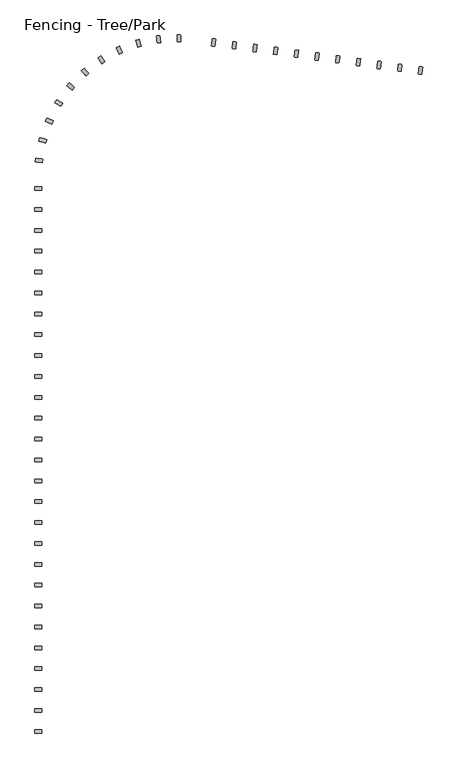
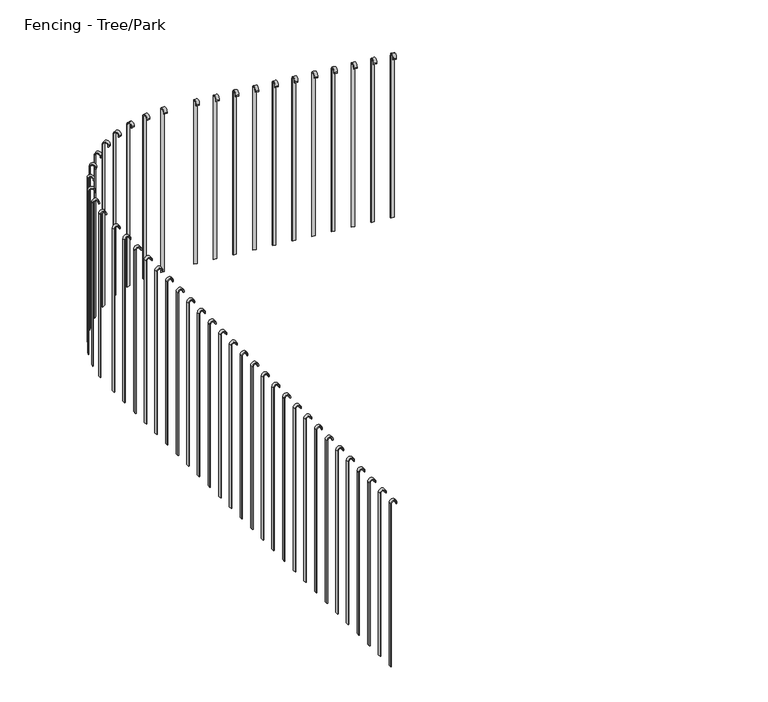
"""IFC4 building model written with IfcOpenShell, lengths in millimetres: railing geometry, Fencing - Tree/Park."""

from ifc_helpers import new_model, si_unit, point, frame, frame_2d, origin, place, context, project, spatial, polyline, circle_curve, trimmed, segment, composite_curve, outline, extrude, source, transform, mapped, element, save


def fencing_tree_park_2f6e36ae(model_context):
    return source(origin(), model_context, "Body", "SweptSolid", [
        extrude(outline(composite_curve([segment(polyline([(4250.0, -12895.5232368), (2850.0, -12895.5232368), (2850.0, -12890.5232368), (4250.0, -12890.5232368)]), True, "CONTINUOUS"), segment(trimmed(circle_curve(frame_2d((4250.0, -12870.5232368)), 20.0), [point((4250.0, -12890.5232368))], [point((4250.0, -12850.5232368))], True, "CARTESIAN"), True, "CONTINUOUS"), segment(polyline([(4250.0, -12850.5232368), (4240.0, -12850.5232368), (4240.0, -12845.5232368), (4250.0, -12845.5232368)]), True, "CONTINUOUS"), segment(trimmed(circle_curve(frame_2d((4250.0, -12870.5232368)), 25.0), [point((4250.0, -12845.5232368))], [point((4250.0, -12895.5232368))], False, "CARTESIAN"), True, "CONTINUOUS")], self_intersect=False)), frame((0.0, 7287.7905414, 0.0), z_axis=(0.0, 1.0, 0.0), x_axis=(0.0, 0.0, 1.0)), (0.0, 0.0, 1.0), 25.0),
        extrude(outline(composite_curve([segment(polyline([(4250.0, -12895.5232368), (2850.0, -12895.5232368), (2850.0, -12890.5232368), (4250.0, -12890.5232368)]), True, "CONTINUOUS"), segment(trimmed(circle_curve(frame_2d((4250.0, -12870.5232368)), 20.0), [point((4250.0, -12890.5232368))], [point((4250.0, -12850.5232368))], True, "CARTESIAN"), True, "CONTINUOUS"), segment(polyline([(4250.0, -12850.5232368), (4240.0, -12850.5232368), (4240.0, -12845.5232368), (4250.0, -12845.5232368)]), True, "CONTINUOUS"), segment(trimmed(circle_curve(frame_2d((4250.0, -12870.5232368)), 25.0), [point((4250.0, -12845.5232368))], [point((4250.0, -12895.5232368))], False, "CARTESIAN"), True, "CONTINUOUS")], self_intersect=False)), frame((0.0, 7437.7905414, 0.0), z_axis=(0.0, 1.0, 0.0), x_axis=(0.0, 0.0, 1.0)), (0.0, 0.0, 1.0), 25.0),
        extrude(outline(composite_curve([segment(polyline([(4250.0, -12895.5232368), (2850.0, -12895.5232368), (2850.0, -12890.5232368), (4250.0, -12890.5232368)]), True, "CONTINUOUS"), segment(trimmed(circle_curve(frame_2d((4250.0, -12870.5232368)), 20.0), [point((4250.0, -12890.5232368))], [point((4250.0, -12850.5232368))], True, "CARTESIAN"), True, "CONTINUOUS"), segment(polyline([(4250.0, -12850.5232368), (4240.0, -12850.5232368), (4240.0, -12845.5232368), (4250.0, -12845.5232368)]), True, "CONTINUOUS"), segment(trimmed(circle_curve(frame_2d((4250.0, -12870.5232368)), 25.0), [point((4250.0, -12845.5232368))], [point((4250.0, -12895.5232368))], False, "CARTESIAN"), True, "CONTINUOUS")], self_intersect=False)), frame((0.0, 7587.7905414, 0.0), z_axis=(0.0, 1.0, 0.0), x_axis=(0.0, 0.0, 1.0)), (0.0, 0.0, 1.0), 25.0),
        extrude(outline(composite_curve([segment(polyline([(4250.0, -12895.5232368), (2850.0, -12895.5232368), (2850.0, -12890.5232368), (4250.0, -12890.5232368)]), True, "CONTINUOUS"), segment(trimmed(circle_curve(frame_2d((4250.0, -12870.5232368)), 20.0), [point((4250.0, -12890.5232368))], [point((4250.0, -12850.5232368))], True, "CARTESIAN"), True, "CONTINUOUS"), segment(polyline([(4250.0, -12850.5232368), (4240.0, -12850.5232368), (4240.0, -12845.5232368), (4250.0, -12845.5232368)]), True, "CONTINUOUS"), segment(trimmed(circle_curve(frame_2d((4250.0, -12870.5232368)), 25.0), [point((4250.0, -12845.5232368))], [point((4250.0, -12895.5232368))], False, "CARTESIAN"), True, "CONTINUOUS")], self_intersect=False)), frame((0.0, 7737.7905414, 0.0), z_axis=(0.0, 1.0, 0.0), x_axis=(0.0, 0.0, 1.0)), (0.0, 0.0, 1.0), 25.0),
        extrude(outline(composite_curve([segment(polyline([(4250.0, -12895.5232368), (2850.0, -12895.5232368), (2850.0, -12890.5232368), (4250.0, -12890.5232368)]), True, "CONTINUOUS"), segment(trimmed(circle_curve(frame_2d((4250.0, -12870.5232368)), 20.0), [point((4250.0, -12890.5232368))], [point((4250.0, -12850.5232368))], True, "CARTESIAN"), True, "CONTINUOUS"), segment(polyline([(4250.0, -12850.5232368), (4240.0, -12850.5232368), (4240.0, -12845.5232368), (4250.0, -12845.5232368)]), True, "CONTINUOUS"), segment(trimmed(circle_curve(frame_2d((4250.0, -12870.5232368)), 25.0), [point((4250.0, -12845.5232368))], [point((4250.0, -12895.5232368))], False, "CARTESIAN"), True, "CONTINUOUS")], self_intersect=False)), frame((0.0, 7887.7905414, 0.0), z_axis=(0.0, 1.0, 0.0), x_axis=(0.0, 0.0, 1.0)), (0.0, 0.0, 1.0), 25.0),
        extrude(outline(composite_curve([segment(polyline([(4250.0, -12895.5232368), (2850.0, -12895.5232368), (2850.0, -12890.5232368), (4250.0, -12890.5232368)]), True, "CONTINUOUS"), segment(trimmed(circle_curve(frame_2d((4250.0, -12870.5232368)), 20.0), [point((4250.0, -12890.5232368))], [point((4250.0, -12850.5232368))], True, "CARTESIAN"), True, "CONTINUOUS"), segment(polyline([(4250.0, -12850.5232368), (4240.0, -12850.5232368), (4240.0, -12845.5232368), (4250.0, -12845.5232368)]), True, "CONTINUOUS"), segment(trimmed(circle_curve(frame_2d((4250.0, -12870.5232368)), 25.0), [point((4250.0, -12845.5232368))], [point((4250.0, -12895.5232368))], False, "CARTESIAN"), True, "CONTINUOUS")], self_intersect=False)), frame((0.0, 8037.7905414, 0.0), z_axis=(0.0, 1.0, 0.0), x_axis=(0.0, 0.0, 1.0)), (0.0, 0.0, 1.0), 25.0),
        extrude(outline(composite_curve([segment(polyline([(4250.0, -12895.5232368), (2850.0, -12895.5232368), (2850.0, -12890.5232368), (4250.0, -12890.5232368)]), True, "CONTINUOUS"), segment(trimmed(circle_curve(frame_2d((4250.0, -12870.5232368)), 20.0), [point((4250.0, -12890.5232368))], [point((4250.0, -12850.5232368))], True, "CARTESIAN"), True, "CONTINUOUS"), segment(polyline([(4250.0, -12850.5232368), (4240.0, -12850.5232368), (4240.0, -12845.5232368), (4250.0, -12845.5232368)]), True, "CONTINUOUS"), segment(trimmed(circle_curve(frame_2d((4250.0, -12870.5232368)), 25.0), [point((4250.0, -12845.5232368))], [point((4250.0, -12895.5232368))], False, "CARTESIAN"), True, "CONTINUOUS")], self_intersect=False)), frame((0.0, 8187.7905414, 0.0), z_axis=(0.0, 1.0, 0.0), x_axis=(0.0, 0.0, 1.0)), (0.0, 0.0, 1.0), 25.0),
        extrude(outline(composite_curve([segment(polyline([(4250.0, -12895.5232368), (2850.0, -12895.5232368), (2850.0, -12890.5232368), (4250.0, -12890.5232368)]), True, "CONTINUOUS"), segment(trimmed(circle_curve(frame_2d((4250.0, -12870.5232368)), 20.0), [point((4250.0, -12890.5232368))], [point((4250.0, -12850.5232368))], True, "CARTESIAN"), True, "CONTINUOUS"), segment(polyline([(4250.0, -12850.5232368), (4240.0, -12850.5232368), (4240.0, -12845.5232368), (4250.0, -12845.5232368)]), True, "CONTINUOUS"), segment(trimmed(circle_curve(frame_2d((4250.0, -12870.5232368)), 25.0), [point((4250.0, -12845.5232368))], [point((4250.0, -12895.5232368))], False, "CARTESIAN"), True, "CONTINUOUS")], self_intersect=False)), frame((0.0, 8337.7905414, 0.0), z_axis=(0.0, 1.0, 0.0), x_axis=(0.0, 0.0, 1.0)), (0.0, 0.0, 1.0), 25.0),
        extrude(outline(composite_curve([segment(polyline([(4250.0, -12895.5232368), (2850.0, -12895.5232368), (2850.0, -12890.5232368), (4250.0, -12890.5232368)]), True, "CONTINUOUS"), segment(trimmed(circle_curve(frame_2d((4250.0, -12870.5232368)), 20.0), [point((4250.0, -12890.5232368))], [point((4250.0, -12850.5232368))], True, "CARTESIAN"), True, "CONTINUOUS"), segment(polyline([(4250.0, -12850.5232368), (4240.0, -12850.5232368), (4240.0, -12845.5232368), (4250.0, -12845.5232368)]), True, "CONTINUOUS"), segment(trimmed(circle_curve(frame_2d((4250.0, -12870.5232368)), 25.0), [point((4250.0, -12845.5232368))], [point((4250.0, -12895.5232368))], False, "CARTESIAN"), True, "CONTINUOUS")], self_intersect=False)), frame((0.0, 8487.7905414, 0.0), z_axis=(0.0, 1.0, 0.0), x_axis=(0.0, 0.0, 1.0)), (0.0, 0.0, 1.0), 25.0),
        extrude(outline(composite_curve([segment(polyline([(4250.0, -12895.5232368), (2850.0, -12895.5232368), (2850.0, -12890.5232368), (4250.0, -12890.5232368)]), True, "CONTINUOUS"), segment(trimmed(circle_curve(frame_2d((4250.0, -12870.5232368)), 20.0), [point((4250.0, -12890.5232368))], [point((4250.0, -12850.5232368))], True, "CARTESIAN"), True, "CONTINUOUS"), segment(polyline([(4250.0, -12850.5232368), (4240.0, -12850.5232368), (4240.0, -12845.5232368), (4250.0, -12845.5232368)]), True, "CONTINUOUS"), segment(trimmed(circle_curve(frame_2d((4250.0, -12870.5232368)), 25.0), [point((4250.0, -12845.5232368))], [point((4250.0, -12895.5232368))], False, "CARTESIAN"), True, "CONTINUOUS")], self_intersect=False)), frame((0.0, 8637.7905414, 0.0), z_axis=(0.0, 1.0, 0.0), x_axis=(0.0, 0.0, 1.0)), (0.0, 0.0, 1.0), 25.0),
        extrude(outline(composite_curve([segment(polyline([(4250.0, -12895.5232368), (2850.0, -12895.5232368), (2850.0, -12890.5232368), (4250.0, -12890.5232368)]), True, "CONTINUOUS"), segment(trimmed(circle_curve(frame_2d((4250.0, -12870.5232368)), 20.0), [point((4250.0, -12890.5232368))], [point((4250.0, -12850.5232368))], True, "CARTESIAN"), True, "CONTINUOUS"), segment(polyline([(4250.0, -12850.5232368), (4240.0, -12850.5232368), (4240.0, -12845.5232368), (4250.0, -12845.5232368)]), True, "CONTINUOUS"), segment(trimmed(circle_curve(frame_2d((4250.0, -12870.5232368)), 25.0), [point((4250.0, -12845.5232368))], [point((4250.0, -12895.5232368))], False, "CARTESIAN"), True, "CONTINUOUS")], self_intersect=False)), frame((0.0, 8787.7905414, 0.0), z_axis=(0.0, 1.0, 0.0), x_axis=(0.0, 0.0, 1.0)), (0.0, 0.0, 1.0), 25.0),
        extrude(outline(composite_curve([segment(polyline([(4250.0, -12895.5232368), (2850.0, -12895.5232368), (2850.0, -12890.5232368), (4250.0, -12890.5232368)]), True, "CONTINUOUS"), segment(trimmed(circle_curve(frame_2d((4250.0, -12870.5232368)), 20.0), [point((4250.0, -12890.5232368))], [point((4250.0, -12850.5232368))], True, "CARTESIAN"), True, "CONTINUOUS"), segment(polyline([(4250.0, -12850.5232368), (4240.0, -12850.5232368), (4240.0, -12845.5232368), (4250.0, -12845.5232368)]), True, "CONTINUOUS"), segment(trimmed(circle_curve(frame_2d((4250.0, -12870.5232368)), 25.0), [point((4250.0, -12845.5232368))], [point((4250.0, -12895.5232368))], False, "CARTESIAN"), True, "CONTINUOUS")], self_intersect=False)), frame((0.0, 8937.7905414, 0.0), z_axis=(0.0, 1.0, 0.0), x_axis=(0.0, 0.0, 1.0)), (0.0, 0.0, 1.0), 25.0),
        extrude(outline(composite_curve([segment(polyline([(4250.0, -12895.5232368), (2850.0, -12895.5232368), (2850.0, -12890.5232368), (4250.0, -12890.5232368)]), True, "CONTINUOUS"), segment(trimmed(circle_curve(frame_2d((4250.0, -12870.5232368)), 20.0), [point((4250.0, -12890.5232368))], [point((4250.0, -12850.5232368))], True, "CARTESIAN"), True, "CONTINUOUS"), segment(polyline([(4250.0, -12850.5232368), (4240.0, -12850.5232368), (4240.0, -12845.5232368), (4250.0, -12845.5232368)]), True, "CONTINUOUS"), segment(trimmed(circle_curve(frame_2d((4250.0, -12870.5232368)), 25.0), [point((4250.0, -12845.5232368))], [point((4250.0, -12895.5232368))], False, "CARTESIAN"), True, "CONTINUOUS")], self_intersect=False)), frame((0.0, 9087.7905414, 0.0), z_axis=(0.0, 1.0, 0.0), x_axis=(0.0, 0.0, 1.0)), (0.0, 0.0, 1.0), 25.0),
        extrude(outline(composite_curve([segment(polyline([(4250.0, -12895.5232368), (2850.0, -12895.5232368), (2850.0, -12890.5232368), (4250.0, -12890.5232368)]), True, "CONTINUOUS"), segment(trimmed(circle_curve(frame_2d((4250.0, -12870.5232368)), 20.0), [point((4250.0, -12890.5232368))], [point((4250.0, -12850.5232368))], True, "CARTESIAN"), True, "CONTINUOUS"), segment(polyline([(4250.0, -12850.5232368), (4240.0, -12850.5232368), (4240.0, -12845.5232368), (4250.0, -12845.5232368)]), True, "CONTINUOUS"), segment(trimmed(circle_curve(frame_2d((4250.0, -12870.5232368)), 25.0), [point((4250.0, -12845.5232368))], [point((4250.0, -12895.5232368))], False, "CARTESIAN"), True, "CONTINUOUS")], self_intersect=False)), frame((0.0, 9237.7905414, 0.0), z_axis=(0.0, 1.0, 0.0), x_axis=(0.0, 0.0, 1.0)), (0.0, 0.0, 1.0), 25.0),
        extrude(outline(composite_curve([segment(polyline([(4250.0, -12895.5232368), (2850.0, -12895.5232368), (2850.0, -12890.5232368), (4250.0, -12890.5232368)]), True, "CONTINUOUS"), segment(trimmed(circle_curve(frame_2d((4250.0, -12870.5232368)), 20.0), [point((4250.0, -12890.5232368))], [point((4250.0, -12850.5232368))], True, "CARTESIAN"), True, "CONTINUOUS"), segment(polyline([(4250.0, -12850.5232368), (4240.0, -12850.5232368), (4240.0, -12845.5232368), (4250.0, -12845.5232368)]), True, "CONTINUOUS"), segment(trimmed(circle_curve(frame_2d((4250.0, -12870.5232368)), 25.0), [point((4250.0, -12845.5232368))], [point((4250.0, -12895.5232368))], False, "CARTESIAN"), True, "CONTINUOUS")], self_intersect=False)), frame((0.0, 9387.7905414, 0.0), z_axis=(0.0, 1.0, 0.0), x_axis=(0.0, 0.0, 1.0)), (0.0, 0.0, 1.0), 25.0),
        extrude(outline(composite_curve([segment(polyline([(4250.0, -12895.5232368), (2850.0, -12895.5232368), (2850.0, -12890.5232368), (4250.0, -12890.5232368)]), True, "CONTINUOUS"), segment(trimmed(circle_curve(frame_2d((4250.0, -12870.5232368)), 20.0), [point((4250.0, -12890.5232368))], [point((4250.0, -12850.5232368))], True, "CARTESIAN"), True, "CONTINUOUS"), segment(polyline([(4250.0, -12850.5232368), (4240.0, -12850.5232368), (4240.0, -12845.5232368), (4250.0, -12845.5232368)]), True, "CONTINUOUS"), segment(trimmed(circle_curve(frame_2d((4250.0, -12870.5232368)), 25.0), [point((4250.0, -12845.5232368))], [point((4250.0, -12895.5232368))], False, "CARTESIAN"), True, "CONTINUOUS")], self_intersect=False)), frame((0.0, 9537.7905414, 0.0), z_axis=(0.0, 1.0, 0.0), x_axis=(0.0, 0.0, 1.0)), (0.0, 0.0, 1.0), 25.0),
        extrude(outline(composite_curve([segment(polyline([(4250.0, -12895.5232368), (2850.0, -12895.5232368), (2850.0, -12890.5232368), (4250.0, -12890.5232368)]), True, "CONTINUOUS"), segment(trimmed(circle_curve(frame_2d((4250.0, -12870.5232368)), 20.0), [point((4250.0, -12890.5232368))], [point((4250.0, -12850.5232368))], True, "CARTESIAN"), True, "CONTINUOUS"), segment(polyline([(4250.0, -12850.5232368), (4240.0, -12850.5232368), (4240.0, -12845.5232368), (4250.0, -12845.5232368)]), True, "CONTINUOUS"), segment(trimmed(circle_curve(frame_2d((4250.0, -12870.5232368)), 25.0), [point((4250.0, -12845.5232368))], [point((4250.0, -12895.5232368))], False, "CARTESIAN"), True, "CONTINUOUS")], self_intersect=False)), frame((0.0, 9687.7905414, 0.0), z_axis=(0.0, 1.0, 0.0), x_axis=(0.0, 0.0, 1.0)), (0.0, 0.0, 1.0), 25.0),
        extrude(outline(composite_curve([segment(polyline([(4250.0, -12895.5232368), (2850.0, -12895.5232368), (2850.0, -12890.5232368), (4250.0, -12890.5232368)]), True, "CONTINUOUS"), segment(trimmed(circle_curve(frame_2d((4250.0, -12870.5232368)), 20.0), [point((4250.0, -12890.5232368))], [point((4250.0, -12850.5232368))], True, "CARTESIAN"), True, "CONTINUOUS"), segment(polyline([(4250.0, -12850.5232368), (4240.0, -12850.5232368), (4240.0, -12845.5232368), (4250.0, -12845.5232368)]), True, "CONTINUOUS"), segment(trimmed(circle_curve(frame_2d((4250.0, -12870.5232368)), 25.0), [point((4250.0, -12845.5232368))], [point((4250.0, -12895.5232368))], False, "CARTESIAN"), True, "CONTINUOUS")], self_intersect=False)), frame((0.0, 9837.7905414, 0.0), z_axis=(0.0, 1.0, 0.0), x_axis=(0.0, 0.0, 1.0)), (0.0, 0.0, 1.0), 25.0),
        extrude(outline(composite_curve([segment(polyline([(4250.0, -12895.5232368), (2850.0, -12895.5232368), (2850.0, -12890.5232368), (4250.0, -12890.5232368)]), True, "CONTINUOUS"), segment(trimmed(circle_curve(frame_2d((4250.0, -12870.5232368)), 20.0), [point((4250.0, -12890.5232368))], [point((4250.0, -12850.5232368))], True, "CARTESIAN"), True, "CONTINUOUS"), segment(polyline([(4250.0, -12850.5232368), (4240.0, -12850.5232368), (4240.0, -12845.5232368), (4250.0, -12845.5232368)]), True, "CONTINUOUS"), segment(trimmed(circle_curve(frame_2d((4250.0, -12870.5232368)), 25.0), [point((4250.0, -12845.5232368))], [point((4250.0, -12895.5232368))], False, "CARTESIAN"), True, "CONTINUOUS")], self_intersect=False)), frame((0.0, 9987.7905414, 0.0), z_axis=(0.0, 1.0, 0.0), x_axis=(0.0, 0.0, 1.0)), (0.0, 0.0, 1.0), 25.0),
        extrude(outline(composite_curve([segment(polyline([(4250.0, -12895.5232368), (2850.0, -12895.5232368), (2850.0, -12890.5232368), (4250.0, -12890.5232368)]), True, "CONTINUOUS"), segment(trimmed(circle_curve(frame_2d((4250.0, -12870.5232368)), 20.0), [point((4250.0, -12890.5232368))], [point((4250.0, -12850.5232368))], True, "CARTESIAN"), True, "CONTINUOUS"), segment(polyline([(4250.0, -12850.5232368), (4240.0, -12850.5232368), (4240.0, -12845.5232368), (4250.0, -12845.5232368)]), True, "CONTINUOUS"), segment(trimmed(circle_curve(frame_2d((4250.0, -12870.5232368)), 25.0), [point((4250.0, -12845.5232368))], [point((4250.0, -12895.5232368))], False, "CARTESIAN"), True, "CONTINUOUS")], self_intersect=False)), frame((0.0, 10137.7905414, 0.0), z_axis=(0.0, 1.0, 0.0), x_axis=(0.0, 0.0, 1.0)), (0.0, 0.0, 1.0), 25.0),
        extrude(outline(composite_curve([segment(polyline([(4250.0, -12895.5232368), (2850.0, -12895.5232368), (2850.0, -12890.5232368), (4250.0, -12890.5232368)]), True, "CONTINUOUS"), segment(trimmed(circle_curve(frame_2d((4250.0, -12870.5232368)), 20.0), [point((4250.0, -12890.5232368))], [point((4250.0, -12850.5232368))], True, "CARTESIAN"), True, "CONTINUOUS"), segment(polyline([(4250.0, -12850.5232368), (4240.0, -12850.5232368), (4240.0, -12845.5232368), (4250.0, -12845.5232368)]), True, "CONTINUOUS"), segment(trimmed(circle_curve(frame_2d((4250.0, -12870.5232368)), 25.0), [point((4250.0, -12845.5232368))], [point((4250.0, -12895.5232368))], False, "CARTESIAN"), True, "CONTINUOUS")], self_intersect=False)), frame((0.0, 10287.7905414, 0.0), z_axis=(0.0, 1.0, 0.0), x_axis=(0.0, 0.0, 1.0)), (0.0, 0.0, 1.0), 25.0),
        extrude(outline(composite_curve([segment(polyline([(4250.0, -12895.5232368), (2850.0, -12895.5232368), (2850.0, -12890.5232368), (4250.0, -12890.5232368)]), True, "CONTINUOUS"), segment(trimmed(circle_curve(frame_2d((4250.0, -12870.5232368)), 20.0), [point((4250.0, -12890.5232368))], [point((4250.0, -12850.5232368))], True, "CARTESIAN"), True, "CONTINUOUS"), segment(polyline([(4250.0, -12850.5232368), (4240.0, -12850.5232368), (4240.0, -12845.5232368), (4250.0, -12845.5232368)]), True, "CONTINUOUS"), segment(trimmed(circle_curve(frame_2d((4250.0, -12870.5232368)), 25.0), [point((4250.0, -12845.5232368))], [point((4250.0, -12895.5232368))], False, "CARTESIAN"), True, "CONTINUOUS")], self_intersect=False)), frame((0.0, 10437.7905414, 0.0), z_axis=(0.0, 1.0, 0.0), x_axis=(0.0, 0.0, 1.0)), (0.0, 0.0, 1.0), 25.0),
        extrude(outline(composite_curve([segment(polyline([(4250.0, -12895.5232368), (2850.0, -12895.5232368), (2850.0, -12890.5232368), (4250.0, -12890.5232368)]), True, "CONTINUOUS"), segment(trimmed(circle_curve(frame_2d((4250.0, -12870.5232368)), 20.0), [point((4250.0, -12890.5232368))], [point((4250.0, -12850.5232368))], True, "CARTESIAN"), True, "CONTINUOUS"), segment(polyline([(4250.0, -12850.5232368), (4240.0, -12850.5232368), (4240.0, -12845.5232368), (4250.0, -12845.5232368)]), True, "CONTINUOUS"), segment(trimmed(circle_curve(frame_2d((4250.0, -12870.5232368)), 25.0), [point((4250.0, -12845.5232368))], [point((4250.0, -12895.5232368))], False, "CARTESIAN"), True, "CONTINUOUS")], self_intersect=False)), frame((0.0, 10587.7905414, 0.0), z_axis=(0.0, 1.0, 0.0), x_axis=(0.0, 0.0, 1.0)), (0.0, 0.0, 1.0), 25.0),
        extrude(outline(composite_curve([segment(polyline([(4250.0, -12895.5232368), (2850.0, -12895.5232368), (2850.0, -12890.5232368), (4250.0, -12890.5232368)]), True, "CONTINUOUS"), segment(trimmed(circle_curve(frame_2d((4250.0, -12870.5232368)), 20.0), [point((4250.0, -12890.5232368))], [point((4250.0, -12850.5232368))], True, "CARTESIAN"), True, "CONTINUOUS"), segment(polyline([(4250.0, -12850.5232368), (4240.0, -12850.5232368), (4240.0, -12845.5232368), (4250.0, -12845.5232368)]), True, "CONTINUOUS"), segment(trimmed(circle_curve(frame_2d((4250.0, -12870.5232368)), 25.0), [point((4250.0, -12845.5232368))], [point((4250.0, -12895.5232368))], False, "CARTESIAN"), True, "CONTINUOUS")], self_intersect=False)), frame((0.0, 10737.7905414, 0.0), z_axis=(0.0, 1.0, 0.0), x_axis=(0.0, 0.0, 1.0)), (0.0, 0.0, 1.0), 25.0),
        extrude(outline(composite_curve([segment(polyline([(4250.0, -12895.5232368), (2850.0, -12895.5232368), (2850.0, -12890.5232368), (4250.0, -12890.5232368)]), True, "CONTINUOUS"), segment(trimmed(circle_curve(frame_2d((4250.0, -12870.5232368)), 20.0), [point((4250.0, -12890.5232368))], [point((4250.0, -12850.5232368))], True, "CARTESIAN"), True, "CONTINUOUS"), segment(polyline([(4250.0, -12850.5232368), (4240.0, -12850.5232368), (4240.0, -12845.5232368), (4250.0, -12845.5232368)]), True, "CONTINUOUS"), segment(trimmed(circle_curve(frame_2d((4250.0, -12870.5232368)), 25.0), [point((4250.0, -12845.5232368))], [point((4250.0, -12895.5232368))], False, "CARTESIAN"), True, "CONTINUOUS")], self_intersect=False)), frame((0.0, 10887.7905414, 0.0), z_axis=(0.0, 1.0, 0.0), x_axis=(0.0, 0.0, 1.0)), (0.0, 0.0, 1.0), 25.0),
        extrude(outline(composite_curve([segment(polyline([(4250.0, -12895.5232368), (2850.0, -12895.5232368), (2850.0, -12890.5232368), (4250.0, -12890.5232368)]), True, "CONTINUOUS"), segment(trimmed(circle_curve(frame_2d((4250.0, -12870.5232368)), 20.0), [point((4250.0, -12890.5232368))], [point((4250.0, -12850.5232368))], True, "CARTESIAN"), True, "CONTINUOUS"), segment(polyline([(4250.0, -12850.5232368), (4240.0, -12850.5232368), (4240.0, -12845.5232368), (4250.0, -12845.5232368)]), True, "CONTINUOUS"), segment(trimmed(circle_curve(frame_2d((4250.0, -12870.5232368)), 25.0), [point((4250.0, -12845.5232368))], [point((4250.0, -12895.5232368))], False, "CARTESIAN"), True, "CONTINUOUS")], self_intersect=False)), frame((0.0, 11037.7905414, 0.0), z_axis=(0.0, 1.0, 0.0), x_axis=(0.0, 0.0, 1.0)), (0.0, 0.0, 1.0), 25.0),
        extrude(outline(composite_curve([segment(polyline([(4250.0, -12895.5232368), (2850.0, -12895.5232368), (2850.0, -12890.5232368), (4250.0, -12890.5232368)]), True, "CONTINUOUS"), segment(trimmed(circle_curve(frame_2d((4250.0, -12870.5232368)), 20.0), [point((4250.0, -12890.5232368))], [point((4250.0, -12850.5232368))], True, "CARTESIAN"), True, "CONTINUOUS"), segment(polyline([(4250.0, -12850.5232368), (4240.0, -12850.5232368), (4240.0, -12845.5232368), (4250.0, -12845.5232368)]), True, "CONTINUOUS"), segment(trimmed(circle_curve(frame_2d((4250.0, -12870.5232368)), 25.0), [point((4250.0, -12845.5232368))], [point((4250.0, -12895.5232368))], False, "CARTESIAN"), True, "CONTINUOUS")], self_intersect=False)), frame((0.0, 11187.7905414, 0.0), z_axis=(0.0, 1.0, 0.0), x_axis=(0.0, 0.0, 1.0)), (0.0, 0.0, 1.0), 25.0),
        extrude(outline(composite_curve([segment(polyline([(-1400.0, 0.0), (0.0, 0.0), (0.0, -5.0), (-1400.0, -5.0)]), True, "CONTINUOUS"), segment(trimmed(circle_curve(frame_2d((-1400.0, -24.9999999)), 20.0), [point((-1400.0, -5.0))], [point((-1400.0, -45.0))], True, "CARTESIAN"), True, "CONTINUOUS"), segment(polyline([(-1400.0, -45.0), (-1390.0, -45.0), (-1390.0, -50.0), (-1400.0, -50.0)]), True, "CONTINUOUS"), segment(trimmed(circle_curve(frame_2d((-1400.0, -24.9999999)), 25.0), [point((-1400.0, -50.0))], [point((-1400.0, 0.0))], False, "CARTESIAN"), True, "CONTINUOUS")], self_intersect=False)), frame((-12891.3749208, 11392.3203584, 2850.0), z_axis=(0.10403796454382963, 0.9945733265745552, 0.0), x_axis=(0.0, 0.0, -1.0)), (0.0, 0.0, 1.0), 25.0),
        extrude(outline(composite_curve([segment(polyline([(-1400.0, 0.0), (0.0, 0.0), (0.0, -5.0), (-1400.0, -5.0)]), True, "CONTINUOUS"), segment(trimmed(circle_curve(frame_2d((-1400.0, -25.0)), 20.0), [point((-1400.0, -5.0))], [point((-1400.0, -45.0))], True, "CARTESIAN"), True, "CONTINUOUS"), segment(polyline([(-1400.0, -45.0), (-1390.0, -45.0), (-1390.0, -50.0), (-1400.0, -50.0)]), True, "CONTINUOUS"), segment(trimmed(circle_curve(frame_2d((-1400.0, -25.0)), 25.0), [point((-1400.0, -50.0))], [point((-1400.0, 0.0))], False, "CARTESIAN"), True, "CONTINUOUS")], self_intersect=False)), frame((-12866.450757, 11540.4841658, 2850.0), z_axis=(0.2512685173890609, 0.9679174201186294, 0.0), x_axis=(0.0, 0.0, -1.0)), (0.0, 0.0, 1.0), 25.0),
        extrude(outline(composite_curve([segment(polyline([(-1400.0, 0.0), (0.0, 0.0), (0.0, -5.0), (-1400.0, -5.0)]), True, "CONTINUOUS"), segment(trimmed(circle_curve(frame_2d((-1400.0, -25.0)), 20.0), [point((-1400.0, -5.0))], [point((-1400.0, -45.0))], True, "CARTESIAN"), True, "CONTINUOUS"), segment(polyline([(-1400.0, -45.0), (-1390.0, -45.0), (-1390.0, -50.0), (-1400.0, -50.0)]), True, "CONTINUOUS"), segment(trimmed(circle_curve(frame_2d((-1400.0, -25.0)), 25.0), [point((-1400.0, -50.0))], [point((-1400.0, 0.0))], False, "CARTESIAN"), True, "CONTINUOUS")], self_intersect=False)), frame((-12819.6988341, 11683.2706688, 2850.0), z_axis=(0.3928738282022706, 0.919592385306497, 0.0), x_axis=(0.0, 0.0, -1.0)), (0.0, 0.0, 1.0), 25.0),
        extrude(outline(composite_curve([segment(polyline([(-1400.0, 0.0), (0.0, 0.0), (0.0, -5.0000001), (-1400.0, -5.0000001)]), True, "CONTINUOUS"), segment(trimmed(circle_curve(frame_2d((-1400.0, -25.0)), 20.0), [point((-1400.0, -5.0000001))], [point((-1400.0, -45.0))], True, "CARTESIAN"), True, "CONTINUOUS"), segment(polyline([(-1400.0, -45.0), (-1390.0, -45.0), (-1390.0, -50.0), (-1400.0, -50.0)]), True, "CONTINUOUS"), segment(trimmed(circle_curve(frame_2d((-1400.0, -25.0)), 25.0), [point((-1400.0, -50.0))], [point((-1400.0, 0.0))], False, "CARTESIAN"), True, "CONTINUOUS")], self_intersect=False)), frame((-12752.165805, 11817.4832529, 2850.0), z_axis=(0.5256837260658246, 0.850680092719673, 0.0), x_axis=(0.0, 0.0, -1.0)), (0.0, 0.0, 1.0), 25.0),
        extrude(outline(composite_curve([segment(polyline([(-1400.0, 0.0), (0.0, 0.0), (0.0, -5.0), (-1400.0, -5.0)]), True, "CONTINUOUS"), segment(trimmed(circle_curve(frame_2d((-1400.0, -25.0)), 20.0), [point((-1400.0, -5.0))], [point((-1400.0, -45.0))], True, "CARTESIAN"), True, "CONTINUOUS"), segment(polyline([(-1400.0, -45.0), (-1390.0, -45.0), (-1390.0, -50.0), (-1400.0, -50.0)]), True, "CONTINUOUS"), segment(trimmed(circle_curve(frame_2d((-1400.0, -25.0)), 25.0), [point((-1400.0, -50.0))], [point((-1400.0, 0.0))], False, "CARTESIAN"), True, "CONTINUOUS")], self_intersect=False)), frame((-12665.3635567, 11940.1172508, 2850.0), z_axis=(0.6467249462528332, 0.7627233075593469, 0.0), x_axis=(0.0, 0.0, -1.0)), (0.0, 0.0, 1.0), 25.0),
        extrude(outline(composite_curve([segment(polyline([(-1400.0, 0.0), (0.0, 0.0), (0.0, -5.0), (-1400.0, -5.0)]), True, "CONTINUOUS"), segment(trimmed(circle_curve(frame_2d((-1400.0, -25.0)), 20.0), [point((-1400.0, -5.0))], [point((-1400.0, -45.0))], True, "CARTESIAN"), True, "CONTINUOUS"), segment(polyline([(-1400.0, -45.0), (-1390.0, -45.0), (-1390.0, -50.0), (-1400.0, -50.0)]), True, "CONTINUOUS"), segment(trimmed(circle_curve(frame_2d((-1400.0, -25.0)), 25.0), [point((-1400.0, -50.0))], [point((-1400.0, 0.0))], False, "CARTESIAN"), True, "CONTINUOUS")], self_intersect=False)), frame((-12561.2353637, 12048.4272094, 2850.0), z_axis=(0.7532876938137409, 0.6576911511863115, 0.0), x_axis=(0.0, 0.0, -1.0)), (0.0, 0.0, 1.0), 25.0),
        extrude(outline(composite_curve([segment(polyline([(-1400.0, 0.0), (0.0, 0.0), (0.0, -5.0), (-1400.0, -5.0)]), True, "CONTINUOUS"), segment(trimmed(circle_curve(frame_2d((-1400.0, -25.0)), 20.0), [point((-1400.0, -5.0))], [point((-1400.0, -45.0))], True, "CARTESIAN"), True, "CONTINUOUS"), segment(polyline([(-1400.0, -45.0), (-1390.0, -45.0), (-1390.0, -50.0), (-1400.0, -50.0)]), True, "CONTINUOUS"), segment(trimmed(circle_curve(frame_2d((-1400.0, -25.0)), 25.0), [point((-1400.0, -50.0))], [point((-1400.0, 0.0))], False, "CARTESIAN"), True, "CONTINUOUS")], self_intersect=False)), frame((-12442.1123825, 12139.9883534, 2850.0), z_axis=(0.8429863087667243, 0.5379350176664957, 0.0), x_axis=(0.0, 0.0, -1.0)), (0.0, 0.0, 1.0), 25.0),
        extrude(outline(composite_curve([segment(polyline([(-1400.0, 0.0), (0.0, 0.0), (0.0, -5.0), (-1400.0, -5.0)]), True, "CONTINUOUS"), segment(trimmed(circle_curve(frame_2d((-1400.0, -25.0000001)), 20.0), [point((-1400.0, -5.0))], [point((-1400.0, -45.0000001))], True, "CARTESIAN"), True, "CONTINUOUS"), segment(polyline([(-1400.0, -45.0000001), (-1390.0, -45.0000001), (-1390.0, -50.0000001), (-1400.0, -50.0000001)]), True, "CONTINUOUS"), segment(trimmed(circle_curve(frame_2d((-1400.0, -25.0000001)), 25.0), [point((-1400.0, -50.0000001))], [point((-1400.0, 0.0))], False, "CARTESIAN"), True, "CONTINUOUS")], self_intersect=False)), frame((-12310.6614638, 12212.7508693, 2850.0), z_axis=(0.9138126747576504, 0.4061359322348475, 0.0), x_axis=(0.0, 0.0, -1.0)), (0.0, 0.0, 1.0), 25.0),
        extrude(outline(composite_curve([segment(polyline([(-1400.0, 0.0), (0.0, 0.0), (0.0, -5.0), (-1400.0, -5.0)]), True, "CONTINUOUS"), segment(trimmed(circle_curve(frame_2d((-1400.0, -25.0)), 20.0), [point((-1400.0, -5.0))], [point((-1400.0, -45.0))], True, "CARTESIAN"), True, "CONTINUOUS"), segment(polyline([(-1400.0, -45.0), (-1390.0, -45.0), (-1390.0, -50.0), (-1400.0, -50.0)]), True, "CONTINUOUS"), segment(trimmed(circle_curve(frame_2d((-1400.0, -25.0)), 25.0), [point((-1400.0, -50.0))], [point((-1400.0, 0.0))], False, "CARTESIAN"), True, "CONTINUOUS")], self_intersect=False)), frame((-12169.8254483, 12265.0857954, 2850.0), z_axis=(0.964181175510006, 0.26524453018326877, 0.0), x_axis=(0.0, 0.0, -1.0)), (0.0, 0.0, 1.0), 25.0),
        extrude(outline(composite_curve([segment(polyline([(-1400.0, 0.0), (0.0, 0.0), (0.0, -5.0), (-1400.0, -5.0)]), True, "CONTINUOUS"), segment(trimmed(circle_curve(frame_2d((-1400.0, -25.0)), 20.0), [point((-1400.0, -5.0))], [point((-1400.0, -45.0))], True, "CARTESIAN"), True, "CONTINUOUS"), segment(polyline([(-1400.0, -45.0), (-1390.0, -45.0), (-1390.0, -50.0), (-1400.0, -50.0)]), True, "CONTINUOUS"), segment(trimmed(circle_curve(frame_2d((-1400.0, -25.0)), 25.0), [point((-1400.0, -50.0))], [point((-1400.0, 0.0))], False, "CARTESIAN"), True, "CONTINUOUS")], self_intersect=False)), frame((-12022.7572845, 12295.8214902, 2850.0), z_axis=(0.9929641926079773, 0.11841499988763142, 0.0), x_axis=(0.0, 0.0, -1.0)), (0.0, 0.0, 1.0), 25.0),
        extrude(outline(composite_curve([segment(trimmed(circle_curve(frame_2d((1400.0, -25.0)), 25.0), [point((1400.0, 0.0))], [point((1400.0, -50.0))], False, "CARTESIAN"), True, "CONTINUOUS"), segment(polyline([(1400.0, -50.0), (1390.0, -50.0), (1390.0, -45.0), (1400.0, -45.0)]), True, "CONTINUOUS"), segment(trimmed(circle_curve(frame_2d((1400.0, -25.0)), 20.0), [point((1400.0, -45.0))], [point((1400.0, -5.0))], True, "CARTESIAN"), True, "CONTINUOUS"), segment(polyline([(1400.0, -5.0), (0.0, -5.0), (0.0, 0.0), (1400.0, 0.0)]), True, "CONTINUOUS")], self_intersect=False)), frame((-11847.7615084, 12303.493224, 2850.0), z_axis=(-0.9995173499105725, 0.031065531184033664, 0.0), x_axis=(0.0, 0.0, 1.0)), (0.0, 0.0, 1.0), 25.0),
        extrude(outline(composite_curve([segment(trimmed(circle_curve(frame_2d((1400.0, -25.0)), 25.0), [point((1400.0, 0.0))], [point((1400.0, -49.9999999))], False, "CARTESIAN"), True, "CONTINUOUS"), segment(polyline([(1400.0, -49.9999999), (1390.0, -49.9999999), (1390.0, -44.9999999), (1400.0, -44.9999999)]), True, "CONTINUOUS"), segment(trimmed(circle_curve(frame_2d((1400.0, -25.0)), 20.0), [point((1400.0, -44.9999999))], [point((1400.0, -5.0))], True, "CARTESIAN"), True, "CONTINUOUS"), segment(polyline([(1400.0, -5.0), (0.0, -5.0), (0.0, 0.0), (1400.0, 0.0)]), True, "CONTINUOUS")], self_intersect=False)), frame((-11595.8581831, 12273.3885178, 2850.0), z_axis=(-0.9908613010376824, 0.13488469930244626, 0.0), x_axis=(0.0, 0.0, 1.0)), (0.0, 0.0, 1.0), 25.0),
        extrude(outline(composite_curve([segment(trimmed(circle_curve(frame_2d((1400.0, -25.0)), 25.0), [point((1400.0, 0.0))], [point((1400.0, -50.0))], False, "CARTESIAN"), True, "CONTINUOUS"), segment(polyline([(1400.0, -50.0), (1390.0, -50.0), (1390.0, -45.0), (1400.0, -45.0)]), True, "CONTINUOUS"), segment(trimmed(circle_curve(frame_2d((1400.0, -25.0)), 20.0), [point((1400.0, -45.0))], [point((1400.0, -5.0))], True, "CARTESIAN"), True, "CONTINUOUS"), segment(polyline([(1400.0, -5.0), (0.0, -5.0), (0.0, 0.0), (1400.0, 0.0)]), True, "CONTINUOUS")], self_intersect=False)), frame((-11447.2289879, 12253.1558129, 2850.0), z_axis=(-0.9908613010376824, 0.13488469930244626, 0.0), x_axis=(0.0, 0.0, 1.0)), (0.0, 0.0, 1.0), 25.0),
        extrude(outline(composite_curve([segment(trimmed(circle_curve(frame_2d((1400.0, -25.0)), 25.0), [point((1400.0, 0.0))], [point((1400.0, -49.9999999))], False, "CARTESIAN"), True, "CONTINUOUS"), segment(polyline([(1400.0, -49.9999999), (1390.0, -49.9999999), (1390.0, -44.9999999), (1400.0, -44.9999999)]), True, "CONTINUOUS"), segment(trimmed(circle_curve(frame_2d((1400.0, -25.0)), 20.0), [point((1400.0, -44.9999999))], [point((1400.0, -5.0))], True, "CARTESIAN"), True, "CONTINUOUS"), segment(polyline([(1400.0, -5.0), (0.0, -5.0), (0.0, 0.0), (1400.0, 0.0)]), True, "CONTINUOUS")], self_intersect=False)), frame((-11298.5997928, 12232.923108, 2850.0), z_axis=(-0.9908613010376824, 0.13488469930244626, 0.0), x_axis=(0.0, 0.0, 1.0)), (0.0, 0.0, 1.0), 25.0),
        extrude(outline(composite_curve([segment(trimmed(circle_curve(frame_2d((1400.0, -25.0)), 25.0), [point((1400.0, 0.0))], [point((1400.0, -50.0))], False, "CARTESIAN"), True, "CONTINUOUS"), segment(polyline([(1400.0, -50.0), (1390.0, -50.0), (1390.0, -45.0), (1400.0, -45.0)]), True, "CONTINUOUS"), segment(trimmed(circle_curve(frame_2d((1400.0, -25.0)), 20.0), [point((1400.0, -45.0))], [point((1400.0, -5.0))], True, "CARTESIAN"), True, "CONTINUOUS"), segment(polyline([(1400.0, -5.0), (0.0, -5.0), (0.0, 0.0), (1400.0, 0.0)]), True, "CONTINUOUS")], self_intersect=False)), frame((-11149.9705976, 12212.6904031, 2850.0), z_axis=(-0.9908613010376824, 0.13488469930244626, 0.0), x_axis=(0.0, 0.0, 1.0)), (0.0, 0.0, 1.0), 25.0),
        extrude(outline(composite_curve([segment(trimmed(circle_curve(frame_2d((1400.0, -25.0)), 25.0), [point((1400.0, 0.0))], [point((1400.0, -50.0))], False, "CARTESIAN"), True, "CONTINUOUS"), segment(polyline([(1400.0, -50.0), (1390.0, -50.0), (1390.0, -45.0), (1400.0, -45.0)]), True, "CONTINUOUS"), segment(trimmed(circle_curve(frame_2d((1400.0, -25.0)), 20.0), [point((1400.0, -45.0))], [point((1400.0, -5.0))], True, "CARTESIAN"), True, "CONTINUOUS"), segment(polyline([(1400.0, -5.0), (0.0, -5.0), (0.0, 0.0), (1400.0, 0.0)]), True, "CONTINUOUS")], self_intersect=False)), frame((-11001.3414024, 12192.4576982, 2850.0), z_axis=(-0.9908613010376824, 0.13488469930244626, 0.0), x_axis=(0.0, 0.0, 1.0)), (0.0, 0.0, 1.0), 25.0),
        extrude(outline(composite_curve([segment(trimmed(circle_curve(frame_2d((1400.0, -25.0)), 25.0), [point((1400.0, 0.0))], [point((1400.0, -50.0))], False, "CARTESIAN"), True, "CONTINUOUS"), segment(polyline([(1400.0, -50.0), (1390.0, -50.0), (1390.0, -45.0), (1400.0, -45.0)]), True, "CONTINUOUS"), segment(trimmed(circle_curve(frame_2d((1400.0, -25.0)), 20.0), [point((1400.0, -45.0))], [point((1400.0, -5.0))], True, "CARTESIAN"), True, "CONTINUOUS"), segment(polyline([(1400.0, -5.0), (0.0, -5.0), (0.0, 0.0), (1400.0, 0.0)]), True, "CONTINUOUS")], self_intersect=False)), frame((-10852.7122073, 12172.2249933, 2850.0), z_axis=(-0.9908613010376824, 0.13488469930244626, 0.0), x_axis=(0.0, 0.0, 1.0)), (0.0, 0.0, 1.0), 25.0),
        extrude(outline(composite_curve([segment(trimmed(circle_curve(frame_2d((1400.0, -25.0000001)), 25.0), [point((1400.0, 0.0))], [point((1400.0, -50.0000001))], False, "CARTESIAN"), True, "CONTINUOUS"), segment(polyline([(1400.0, -50.0000001), (1390.0, -50.0000001), (1390.0, -45.0000001), (1400.0, -45.0000001)]), True, "CONTINUOUS"), segment(trimmed(circle_curve(frame_2d((1400.0, -25.0000001)), 20.0), [point((1400.0, -45.0000001))], [point((1400.0, -5.0000001))], True, "CARTESIAN"), True, "CONTINUOUS"), segment(polyline([(1400.0, -5.0000001), (0.0, -5.0000001), (0.0, 0.0), (1400.0, 0.0)]), True, "CONTINUOUS")], self_intersect=False)), frame((-10704.0830121, 12151.9922885, 2850.0), z_axis=(-0.9908613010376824, 0.13488469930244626, 0.0), x_axis=(0.0, 0.0, 1.0)), (0.0, 0.0, 1.0), 25.0),
        extrude(outline(composite_curve([segment(trimmed(circle_curve(frame_2d((1400.0, -25.0000001)), 25.0), [point((1400.0, 0.0))], [point((1400.0, -50.0))], False, "CARTESIAN"), True, "CONTINUOUS"), segment(polyline([(1400.0, -50.0), (1390.0, -50.0), (1390.0, -45.0), (1400.0, -45.0)]), True, "CONTINUOUS"), segment(trimmed(circle_curve(frame_2d((1400.0, -25.0000001)), 20.0), [point((1400.0, -45.0))], [point((1400.0, -5.0000001))], True, "CARTESIAN"), True, "CONTINUOUS"), segment(polyline([(1400.0, -5.0000001), (0.0, -5.0000001), (0.0, 0.0), (1400.0, 0.0)]), True, "CONTINUOUS")], self_intersect=False)), frame((-10555.453817, 12131.7595836, 2850.0), z_axis=(-0.9908613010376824, 0.13488469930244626, 0.0), x_axis=(0.0, 0.0, 1.0)), (0.0, 0.0, 1.0), 25.0),
        extrude(outline(composite_curve([segment(trimmed(circle_curve(frame_2d((1400.0, -25.0000001)), 25.0), [point((1400.0, 0.0))], [point((1400.0, -50.0000001))], False, "CARTESIAN"), True, "CONTINUOUS"), segment(polyline([(1400.0, -50.0000001), (1390.0, -50.0000001), (1390.0, -45.0000001), (1400.0, -45.0000001)]), True, "CONTINUOUS"), segment(trimmed(circle_curve(frame_2d((1400.0, -25.0000001)), 20.0), [point((1400.0, -45.0000001))], [point((1400.0, -5.0))], True, "CARTESIAN"), True, "CONTINUOUS"), segment(polyline([(1400.0, -5.0), (0.0, -5.0), (0.0, 0.0), (1400.0, 0.0)]), True, "CONTINUOUS")], self_intersect=False)), frame((-10406.8246218, 12111.5268787, 2850.0), z_axis=(-0.9908613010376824, 0.13488469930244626, 0.0), x_axis=(0.0, 0.0, 1.0)), (0.0, 0.0, 1.0), 25.0),
        extrude(outline(composite_curve([segment(trimmed(circle_curve(frame_2d((1400.0, -25.0000001)), 25.0), [point((1400.0, 0.0))], [point((1400.0, -50.0))], False, "CARTESIAN"), True, "CONTINUOUS"), segment(polyline([(1400.0, -50.0), (1390.0, -50.0), (1390.0, -45.0), (1400.0, -45.0)]), True, "CONTINUOUS"), segment(trimmed(circle_curve(frame_2d((1400.0, -25.0000001)), 20.0), [point((1400.0, -45.0))], [point((1400.0, -5.0))], True, "CARTESIAN"), True, "CONTINUOUS"), segment(polyline([(1400.0, -5.0), (0.0, -5.0), (0.0, 0.0), (1400.0, 0.0)]), True, "CONTINUOUS")], self_intersect=False)), frame((-10258.1954267, 12091.2941738, 2850.0), z_axis=(-0.9908613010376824, 0.13488469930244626, 0.0), x_axis=(0.0, 0.0, 1.0)), (0.0, 0.0, 1.0), 25.0),
        extrude(outline(composite_curve([segment(trimmed(circle_curve(frame_2d((1400.0, -25.0000001)), 25.0), [point((1400.0, 0.0))], [point((1400.0, -50.0000001))], False, "CARTESIAN"), True, "CONTINUOUS"), segment(polyline([(1400.0, -50.0000001), (1390.0, -50.0000001), (1390.0, -45.0000001), (1400.0, -45.0000001)]), True, "CONTINUOUS"), segment(trimmed(circle_curve(frame_2d((1400.0, -25.0000001)), 20.0), [point((1400.0, -45.0000001))], [point((1400.0, -5.0))], True, "CARTESIAN"), True, "CONTINUOUS"), segment(polyline([(1400.0, -5.0), (0.0, -5.0), (0.0, 0.0), (1400.0, 0.0)]), True, "CONTINUOUS")], self_intersect=False)), frame((-10109.5662315, 12071.0614689, 2850.0), z_axis=(-0.9908613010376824, 0.13488469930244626, 0.0), x_axis=(0.0, 0.0, 1.0)), (0.0, 0.0, 1.0), 25.0),
    ])


if __name__ == "__main__":
    model = new_model("IFC4")
    model_context = context("Model", 3, world=origin())
    ifc_project = project(units=[si_unit("LENGTHUNIT", "METRE", prefix="MILLI")], contexts=[model_context])
    site = spatial("IfcSite", under=ifc_project)
    building = spatial("IfcBuilding", under=site)
    placement = place(None, origin())
    fencing_tree_park_shape = fencing_tree_park_2f6e36ae(model_context)
    element("IfcRailing", 1, ObjectType="Fencing - Tree/Park", at=placement, inside=building, context=model_context, shape_type="MappedRepresentation", body=[
        mapped(fencing_tree_park_shape, transform((0.0, 0.0, 0.0), x_axis=(1.0, 0.0, 0.0), y_axis=(0.0, 1.0, 0.0), z_axis=(0.0, 0.0, 1.0))),
    ])
    save(model, "model.ifc")
